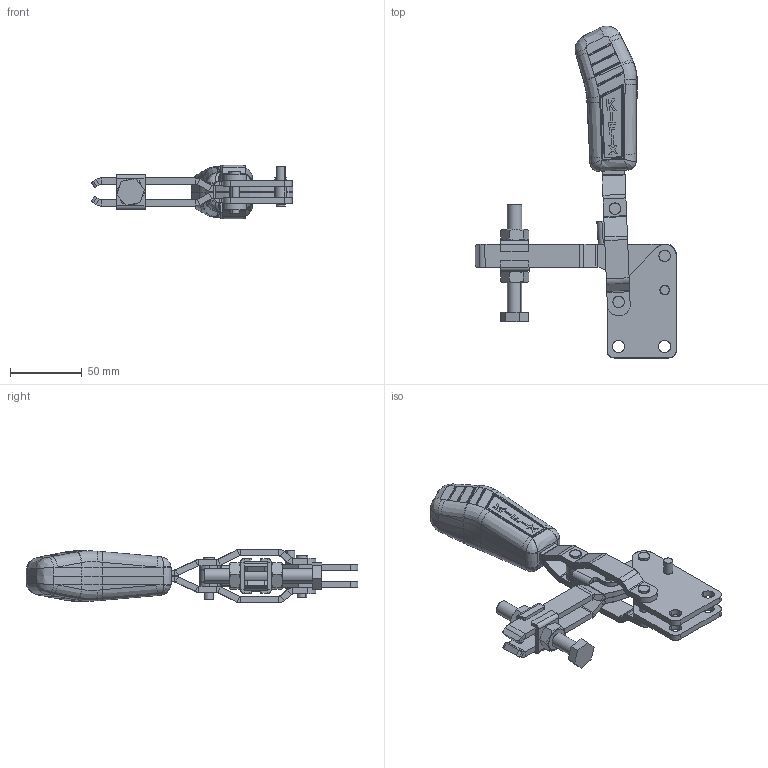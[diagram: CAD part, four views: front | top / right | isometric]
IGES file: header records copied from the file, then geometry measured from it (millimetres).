
Start section: SolidWorks IGES file using analytic representation for surfaces
Global section: file name: C:\Projetos\Grampos\KF-011\KF-011 RB\KF-011 RB.IGS; native system: SolidWorks 2013; preprocessor: SolidWorks 2013; author: Ricardo; date: 140728.100508; units: millimetre
Bounding box: 140.22 x 230.73 x 37 mm (x, y, z)
Surface area: 73278.6 mm2 (no closed solid volume)
Topology: 0 solids, 0 shells, 832 faces, 8784 edges, 8753 vertices
Faces by surface type: bspline 520, revolution 312
